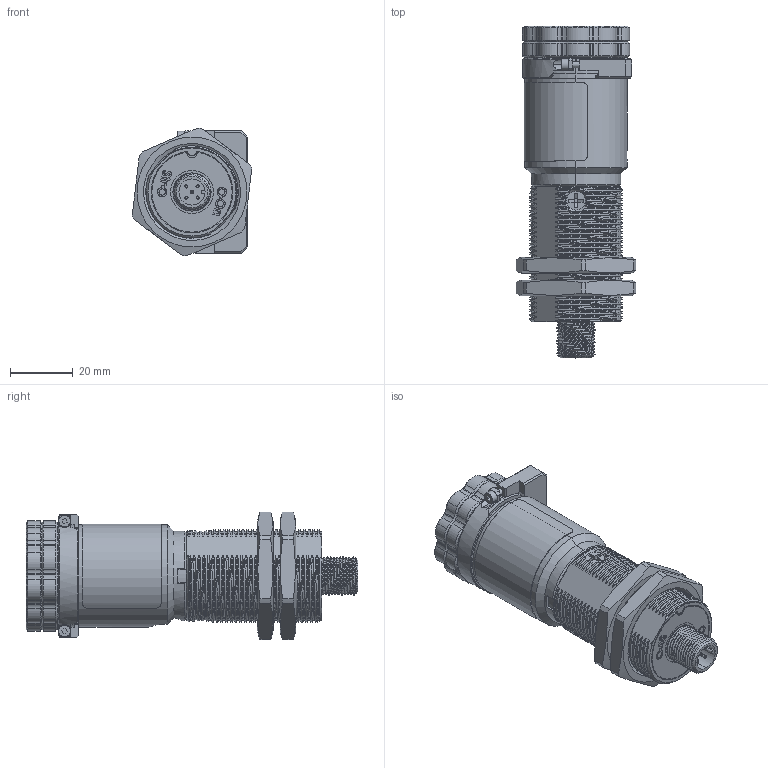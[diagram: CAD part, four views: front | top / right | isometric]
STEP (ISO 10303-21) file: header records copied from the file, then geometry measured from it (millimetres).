
FILE_DESCRIPTION (( 'STEP AP214' ), '1' );
FILE_NAME ('BL-SPOT-M30-WHI - Customer.STEP', '2025-06-11T10:40:15', ( '' ), ( '' ), 'SwSTEP 2.0', 'SolidWorks 2021', '' );
FILE_SCHEMA (( 'AUTOMOTIVE_DESIGN' ));
Length unit declared in the file: millimetre
Products named in the file (10): M2; 048423-A; Locking ring; LEDS; LABEL; Top locking ring; M30 x 1.5 NUT; BL-SPOT-M30-WHI - Customer; Z-SPOT Customer CAD; Lens adjuster
Assembly tree (11 placements, depth 2):
  BL-SPOT-M30-WHI - Customer
    Z-SPOT Customer CAD
    Lens adjuster
    Locking ring
    Top locking ring
    M2  x2
    LABEL
    LEDS
    M30 x 1.5 NUT  x2
    048423-A
Bounding box: 37.98 x 105.5 x 40.57 mm (x, y, z)
Volume: 75086.1 mm3; surface area: 28227.5 mm2
Topology: 12 solids, 12 shells, 1138 faces, 3019 edges, 1944 vertices
Faces by surface type: cylinder 403, cone 249, bspline 243, plane 243
Entity records: 254089 total; most frequent: CARTESIAN_POINT 228745, ORIENTED_EDGE 5822, DIRECTION 4462, EDGE_CURVE 2911, VERTEX_POINT 1878, AXIS2_PLACEMENT_3D 1671, EDGE_LOOP 1157, LINE 1120
